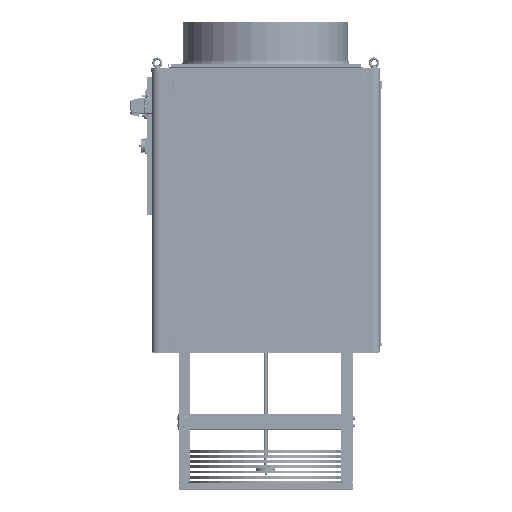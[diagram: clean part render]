
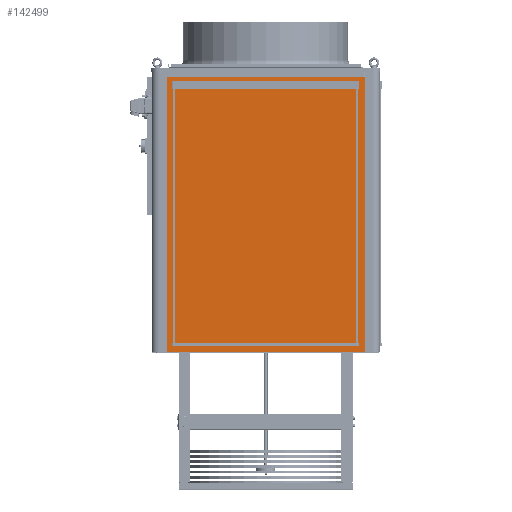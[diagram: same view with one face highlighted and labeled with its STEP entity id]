
A CAD part, front view. The second image highlights one B-rep face of the part: STEP entity #142499.
In plain terms, the highlighted planar face has unit normal (0, -1, 0) as drawn and (0, 0, 1) by its records, which use the part's own axes.
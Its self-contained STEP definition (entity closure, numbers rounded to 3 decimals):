
#7697 = CARTESIAN_POINT ( 'NONE',  ( 1151., -33.5, 18.2 ) ) ;
#9299 = VERTEX_POINT ( 'NONE', #31067 ) ;
#30756 = DIRECTION ( 'NONE',  ( 0., -1., 0. ) ) ;
#30979 = EDGE_CURVE ( 'NONE', #159209, #122897, #106672, .T. ) ;
#31067 = CARTESIAN_POINT ( 'NONE',  ( -50., -900.4, 18.2 ) ) ;
#37085 = DIRECTION ( 'NONE',  ( -1., 0., 0. ) ) ;
#42108 = ORIENTED_EDGE ( 'NONE', *, *, #156712, .T. ) ;
#48707 = CARTESIAN_POINT ( 'NONE',  ( 1151., -33.5, 18.2 ) ) ;
#53884 = DIRECTION ( 'NONE',  ( -1., 0., 0. ) ) ;
#64141 = DIRECTION ( 'NONE',  ( 0., 0., -1. ) ) ;
#68114 = CARTESIAN_POINT ( 'NONE',  ( 1151., -900.4, 18.2 ) ) ;
#75218 = LINE ( 'NONE', #116988, #182994 ) ;
#78065 = PLANE ( 'NONE',  #113648 ) ;
#78186 = DIRECTION ( 'NONE',  ( 0., 1., 0. ) ) ;
#80907 = LINE ( 'NONE', #7697, #163969 ) ;
#84090 = ORIENTED_EDGE ( 'NONE', *, *, #84776, .T. ) ;
#84776 = EDGE_CURVE ( 'NONE', #9299, #95700, #93934, .T. ) ;
#86597 = ORIENTED_EDGE ( 'NONE', *, *, #97290, .T. ) ;
#92714 = CARTESIAN_POINT ( 'NONE',  ( 1151., -33.5, 18.2 ) ) ;
#92862 = FACE_OUTER_BOUND ( 'NONE', #104572, .T. ) ;
#93934 = LINE ( 'NONE', #178449, #142933 ) ;
#95700 = VERTEX_POINT ( 'NONE', #68114 ) ;
#97290 = EDGE_CURVE ( 'NONE', #95700, #159209, #80907, .T. ) ;
#104572 = EDGE_LOOP ( 'NONE', ( #86597, #172891, #42108, #84090 ) ) ;
#106672 = LINE ( 'NONE', #92714, #131468 ) ;
#113648 = AXIS2_PLACEMENT_3D ( 'NONE', #137439, #64141, #53884 ) ;
#116988 = CARTESIAN_POINT ( 'NONE',  ( -50., -33.5, 18.2 ) ) ;
#122897 = VERTEX_POINT ( 'NONE', #163608 ) ;
#131468 = VECTOR ( 'NONE', #37085, 1000. ) ;
#137439 = CARTESIAN_POINT ( 'NONE',  ( 0., 0., 18.2 ) ) ;
#142499 = ADVANCED_FACE ( 'NONE', ( #92862 ), #78065, .F. ) ;
#142933 = VECTOR ( 'NONE', #150588, 1000. ) ;
#150588 = DIRECTION ( 'NONE',  ( 1., 0., 0. ) ) ;
#156712 = EDGE_CURVE ( 'NONE', #122897, #9299, #75218, .T. ) ;
#159209 = VERTEX_POINT ( 'NONE', #48707 ) ;
#163608 = CARTESIAN_POINT ( 'NONE',  ( -50., -33.5, 18.2 ) ) ;
#163969 = VECTOR ( 'NONE', #78186, 1000. ) ;
#172891 = ORIENTED_EDGE ( 'NONE', *, *, #30979, .T. ) ;
#178449 = CARTESIAN_POINT ( 'NONE',  ( 1151., -900.4, 18.2 ) ) ;
#182994 = VECTOR ( 'NONE', #30756, 1000. ) ;
